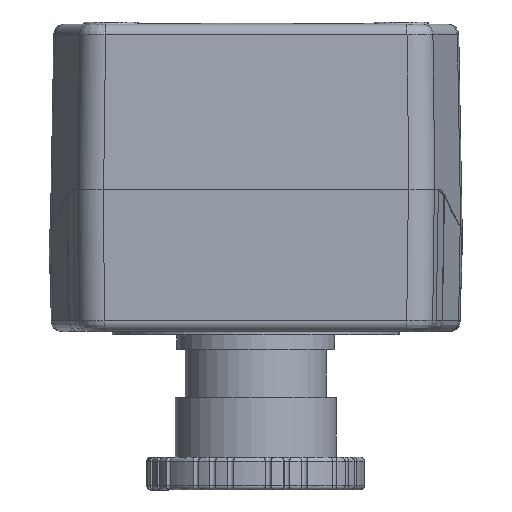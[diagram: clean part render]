
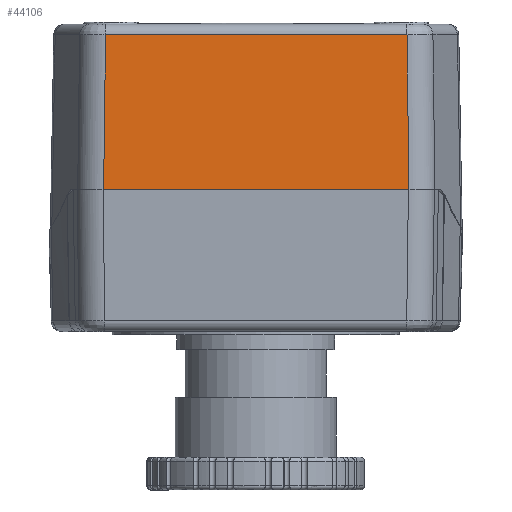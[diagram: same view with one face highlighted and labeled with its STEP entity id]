
A CAD part, left-side view. The second image highlights one B-rep face of the part: STEP entity #44106.
In plain terms, the highlighted planar face has unit normal (-1, 0, 0.018).
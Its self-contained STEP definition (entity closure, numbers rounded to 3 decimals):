
#2871 = PLANE ( 'NONE',  #73371 ) ;
#3076 = CARTESIAN_POINT ( 'NONE',  ( 24.812, -28.037, 0. ) ) ;
#6008 = EDGE_CURVE ( 'NONE', #69908, #20107, #33428, .T. ) ;
#6926 = CARTESIAN_POINT ( 'NONE',  ( 25.307, -27.681, 28.326 ) ) ;
#7002 = EDGE_CURVE ( 'NONE', #20107, #70061, #44799, .T. ) ;
#7026 = ORIENTED_EDGE ( 'NONE', *, *, #52360, .F. ) ;
#7380 = ORIENTED_EDGE ( 'NONE', *, *, #27065, .T. ) ;
#10026 = FACE_OUTER_BOUND ( 'NONE', #49193, .T. ) ;
#10321 = CARTESIAN_POINT ( 'NONE',  ( 24.813, 28.037, 0. ) ) ;
#12236 = CARTESIAN_POINT ( 'NONE',  ( 25.142, -27.8, 18.884 ) ) ;
#12539 = CARTESIAN_POINT ( 'NONE',  ( 24.812, 28.037, 0. ) ) ;
#15122 = CARTESIAN_POINT ( 'NONE',  ( 25.307, 27.681, 28.326 ) ) ;
#19242 = ORIENTED_EDGE ( 'NONE', *, *, #6008, .T. ) ;
#20107 = VERTEX_POINT ( 'NONE', #3076 ) ;
#26308 = DIRECTION ( 'NONE',  ( -1., 0., 0.017 ) ) ;
#26524 = B_SPLINE_CURVE_WITH_KNOTS ( 'NONE', 3,
 ( #12539, #40991, #70151, #35297 ),
 .UNSPECIFIED., .F., .F.,
 ( 4, 4 ),
 ( 0., 1. ),
 .UNSPECIFIED. ) ;
#27065 = EDGE_CURVE ( 'NONE', #70061, #44766, #45033, .T. ) ;
#29274 = CARTESIAN_POINT ( 'NONE',  ( 24.977, -27.918, 9.442 ) ) ;
#29650 = VECTOR ( 'NONE', #32538, 1000. ) ;
#32538 = DIRECTION ( 'NONE',  ( 0., 1., 0. ) ) ;
#32674 = DIRECTION ( 'NONE',  ( 0., -1., 0. ) ) ;
#33287 = CARTESIAN_POINT ( 'NONE',  ( 25.307, -27.681, 28.326 ) ) ;
#33428 = LINE ( 'NONE', #10321, #72353 ) ;
#34973 = CARTESIAN_POINT ( 'NONE',  ( 24.812, -28.037, 0. ) ) ;
#35297 = CARTESIAN_POINT ( 'NONE',  ( 25.307, 27.681, 28.326 ) ) ;
#40991 = CARTESIAN_POINT ( 'NONE',  ( 24.977, 27.918, 9.442 ) ) ;
#44106 = ADVANCED_FACE ( 'NONE', ( #10026 ), #2871, .T. ) ;
#44766 = VERTEX_POINT ( 'NONE', #15122 ) ;
#44799 = B_SPLINE_CURVE_WITH_KNOTS ( 'NONE', 3,
 ( #34973, #29274, #12236, #6926 ),
 .UNSPECIFIED., .F., .F.,
 ( 4, 4 ),
 ( 0., 1. ),
 .UNSPECIFIED. ) ;
#45033 = LINE ( 'NONE', #50728, #29650 ) ;
#48875 = CARTESIAN_POINT ( 'NONE',  ( 24.812, 28.037, 0. ) ) ;
#49193 = EDGE_LOOP ( 'NONE', ( #19242, #62147, #7380, #7026 ) ) ;
#50201 = DIRECTION ( 'NONE',  ( 0.017, 0., 1. ) ) ;
#50728 = CARTESIAN_POINT ( 'NONE',  ( 25.307, 0., 28.326 ) ) ;
#52360 = EDGE_CURVE ( 'NONE', #69908, #44766, #26524, .T. ) ;
#55159 = CARTESIAN_POINT ( 'NONE',  ( 24.813, 28.037, 0. ) ) ;
#62147 = ORIENTED_EDGE ( 'NONE', *, *, #7002, .T. ) ;
#69908 = VERTEX_POINT ( 'NONE', #48875 ) ;
#70061 = VERTEX_POINT ( 'NONE', #33287 ) ;
#70151 = CARTESIAN_POINT ( 'NONE',  ( 25.142, 27.8, 18.884 ) ) ;
#72353 = VECTOR ( 'NONE', #32674, 1000. ) ;
#73371 = AXIS2_PLACEMENT_3D ( 'NONE', #55159, #26308, #50201 ) ;
